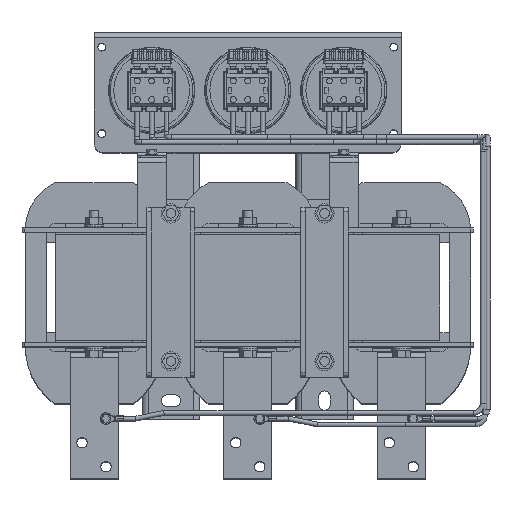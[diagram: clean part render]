
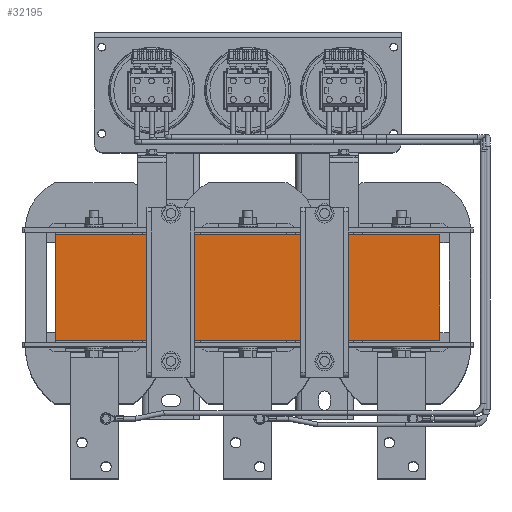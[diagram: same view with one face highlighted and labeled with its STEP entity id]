
A CAD part, top view. The second image highlights one B-rep face of the part: STEP entity #32195.
In plain terms, the highlighted planar face has unit normal (0, 0, 1).
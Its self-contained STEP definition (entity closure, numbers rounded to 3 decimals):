
#659 = PLANE ( 'NONE',  #18219 ) ;
#2649 = CARTESIAN_POINT ( 'NONE',  ( 200., -1.999, 500. ) ) ;
#5363 = VECTOR ( 'NONE', #79475, 1000. ) ;
#7589 = CARTESIAN_POINT ( 'NONE',  ( 200., -111.999, 500. ) ) ;
#10996 = EDGE_LOOP ( 'NONE', ( #73491, #78080, #83511, #38091 ) ) ;
#13608 = CARTESIAN_POINT ( 'NONE',  ( -200., -1.999, 500. ) ) ;
#18219 = AXIS2_PLACEMENT_3D ( 'NONE', #27672, #29513, #64933 ) ;
#21862 = CARTESIAN_POINT ( 'NONE',  ( -200., 0.001, 500. ) ) ;
#21958 = FACE_OUTER_BOUND ( 'NONE', #10996, .T. ) ;
#22991 = EDGE_CURVE ( 'NONE', #56822, #70996, #93192, .T. ) ;
#24594 = CARTESIAN_POINT ( 'NONE',  ( 200., 0.001, 500. ) ) ;
#27672 = CARTESIAN_POINT ( 'NONE',  ( 200., 0.001, 500. ) ) ;
#28753 = CARTESIAN_POINT ( 'NONE',  ( 0., -111.999, 500. ) ) ;
#29513 = DIRECTION ( 'NONE',  ( 0., 0., 1. ) ) ;
#32195 = ADVANCED_FACE ( 'NONE', ( #21958 ), #659, .T. ) ;
#38091 = ORIENTED_EDGE ( 'NONE', *, *, #39081, .F. ) ;
#38296 = EDGE_CURVE ( 'NONE', #91210, #70996, #55736, .T. ) ;
#39081 = EDGE_CURVE ( 'NONE', #80982, #56822, #71228, .T. ) ;
#40164 = LINE ( 'NONE', #24594, #55657 ) ;
#45453 = EDGE_CURVE ( 'NONE', #80982, #91210, #40164, .T. ) ;
#45712 = CARTESIAN_POINT ( 'NONE',  ( -200., -111.999, 500. ) ) ;
#49078 = CARTESIAN_POINT ( 'NONE',  ( 200., -1.999, 500. ) ) ;
#53414 = VECTOR ( 'NONE', #85911, 1000. ) ;
#55657 = VECTOR ( 'NONE', #76036, 1000. ) ;
#55736 = LINE ( 'NONE', #49078, #69866 ) ;
#56822 = VERTEX_POINT ( 'NONE', #45712 ) ;
#64933 = DIRECTION ( 'NONE',  ( 1., 0., 0. ) ) ;
#69866 = VECTOR ( 'NONE', #84534, 1000. ) ;
#70996 = VERTEX_POINT ( 'NONE', #13608 ) ;
#71228 = LINE ( 'NONE', #28753, #53414 ) ;
#73491 = ORIENTED_EDGE ( 'NONE', *, *, #45453, .T. ) ;
#76036 = DIRECTION ( 'NONE',  ( 0., 1., 0. ) ) ;
#78080 = ORIENTED_EDGE ( 'NONE', *, *, #38296, .T. ) ;
#79475 = DIRECTION ( 'NONE',  ( 0., 1., 0. ) ) ;
#80982 = VERTEX_POINT ( 'NONE', #7589 ) ;
#83511 = ORIENTED_EDGE ( 'NONE', *, *, #22991, .F. ) ;
#84534 = DIRECTION ( 'NONE',  ( -1., 0., 0. ) ) ;
#85911 = DIRECTION ( 'NONE',  ( -1., 0., 0. ) ) ;
#91210 = VERTEX_POINT ( 'NONE', #2649 ) ;
#93192 = LINE ( 'NONE', #21862, #5363 ) ;
